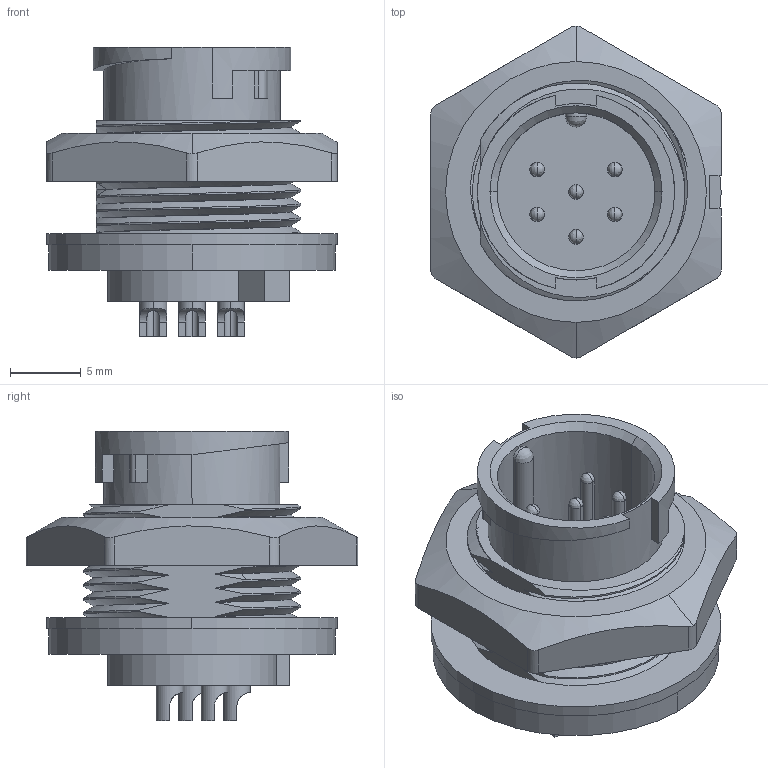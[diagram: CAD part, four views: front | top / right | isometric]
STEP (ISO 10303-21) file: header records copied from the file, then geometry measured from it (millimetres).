
FILE_DESCRIPTION (( 'STEP AP203' ), '1' );
FILE_NAME ('869-006-103R001.STEP', '2024-06-14T18:28:55', ( '' ), ( '' ), 'SwSTEP 2.0', 'SolidWorks 2020', '' );
FILE_SCHEMA (( 'CONFIG_CONTROL_DESIGN' ));
Length unit declared in the file: millimetre
Products named in the file (1): 869-006-103R001
Bounding box: 20.6 x 23.54 x 20.5 mm (x, y, z)
Volume: 2657.9 mm3; surface area: 3683.8 mm2
Topology: 2 solids, 2 shells, 293 faces, 758 edges, 455 vertices
Faces by surface type: cylinder 117, plane 67, bspline 56, cone 53
Entity records: 15284 total; most frequent: CARTESIAN_POINT 8723, ORIENTED_EDGE 1440, DIRECTION 1201, EDGE_CURVE 720, AXIS2_PLACEMENT_3D 470, VERTEX_POINT 455, EDGE_LOOP 319, FACE_OUTER_BOUND 293
